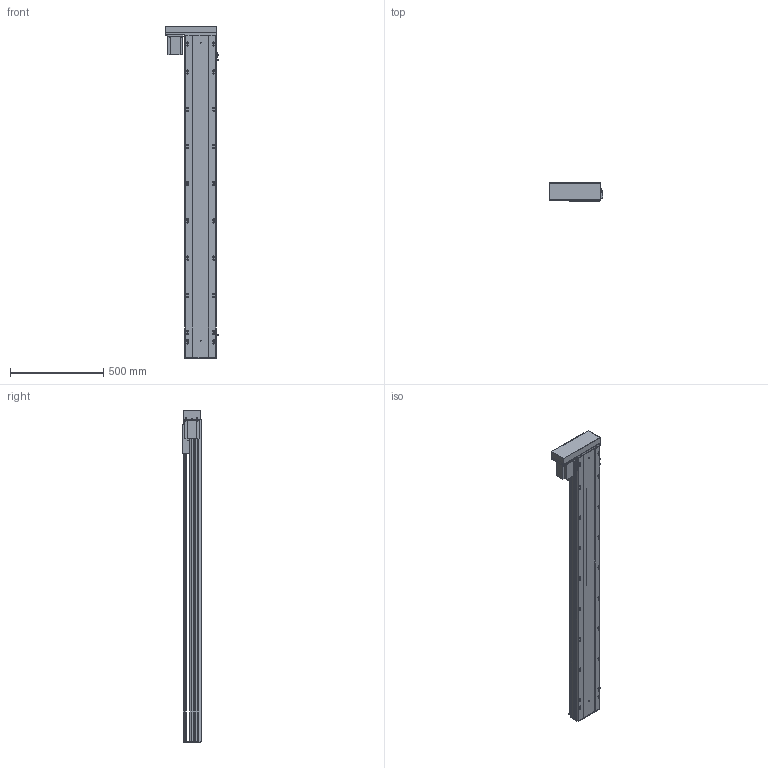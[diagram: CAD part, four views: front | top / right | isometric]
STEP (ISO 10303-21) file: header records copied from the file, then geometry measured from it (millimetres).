
FILE_DESCRIPTION (( 'STEP AP203' ), '1' );
FILE_NAME ('Y170-D10-S1500-BL-P750W.STEP', '2020-01-19T23:19:32', ( '微软用户' ), ( '微软中国' ), 'SwSTEP 2.0', 'SolidWorks 2017', '' );
FILE_SCHEMA (( 'CONFIG_CONTROL_DESIGN' ));
Length unit declared in the file: millimetre
Products named in the file (12): Y170-BL-P750W楊擘啣; 侂狟750W; EGH20賑輸_蕼偞; Y雄赽釱-耜蚾; Y-BL.BR-俋欶; Y170耜裔--準---; Y170-陔遴奻裔-BR; YD-Y100-135-新外置传感挡片(通用）; Y--BL蟀諉啣-陔遴-; Y100-135俋离換覜ん; Y170-D10-S1500-BL-P750W; 170--掛极-BR
Assembly tree (14 placements, depth 2):
  Y170-D10-S1500-BL-P750W
    Y170耜裔--準---
    YD-Y100-135-新外置传感挡片(通用）
    Y100-135俋离換覜ん  x3
    170--掛极-BR
    Y170-BL-P750W楊擘啣
    侂狟750W
    EGH20賑輸_蕼偞  x2
    Y雄赽釱-耜蚾
    Y-BL.BR-俋欶
    Y170-陔遴奻裔-BR
    Y--BL蟀諉啣-陔遴-
Bounding box: 289 x 97 x 1783.5 mm (x, y, z)
Volume: 7941170.3 mm3; surface area: 2806484 mm2
Topology: 14 solids, 14 shells, 971 faces, 2782 edges, 1836 vertices
Faces by surface type: cylinder 510, plane 445, cone 16
Entity records: 31330 total; most frequent: CARTESIAN_POINT 5704, DIRECTION 5160, ORIENTED_EDGE 5060, EDGE_CURVE 2530, AXIS2_PLACEMENT_3D 1848, VERTEX_POINT 1680, LINE 1464, VECTOR 1464
